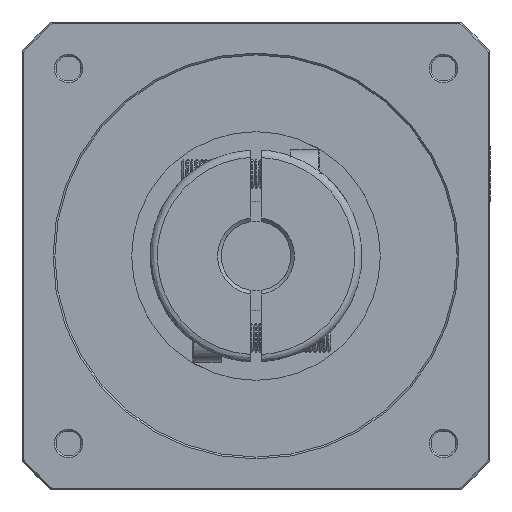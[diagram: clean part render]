
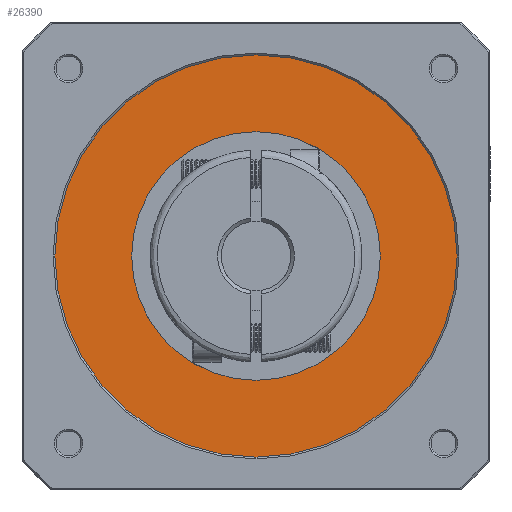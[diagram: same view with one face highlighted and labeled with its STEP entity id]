
A CAD part, front view. The second image highlights one B-rep face of the part: STEP entity #26390.
In plain terms, the highlighted planar face has unit normal (0, 1, 0).
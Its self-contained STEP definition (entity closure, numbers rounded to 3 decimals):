
#542 = EDGE_CURVE ( 'NONE', #47825, #14493, #8088, .T. ) ;
#903 = ORIENTED_EDGE ( 'NONE', *, *, #68615, .T. ) ;
#2756 = CARTESIAN_POINT ( 'NONE',  ( 0., -134.111, -55. ) ) ;
#5072 = EDGE_CURVE ( 'NONE', #14493, #47825, #10459, .T. ) ;
#8088 = CIRCLE ( 'NONE', #29263, 55. ) ;
#8364 = AXIS2_PLACEMENT_3D ( 'NONE', #11970, #59632, #18844 ) ;
#9831 = PLANE ( 'NONE',  #26970 ) ;
#10459 = CIRCLE ( 'NONE', #8364, 55. ) ;
#11970 = CARTESIAN_POINT ( 'NONE',  ( 0., -134.111, 0. ) ) ;
#14493 = VERTEX_POINT ( 'NONE', #69861 ) ;
#18844 = DIRECTION ( 'NONE',  ( 0., 0., -1. ) ) ;
#26390 = ADVANCED_FACE ( 'NONE', ( #87041, #69087 ), #9831, .F. ) ;
#26970 = AXIS2_PLACEMENT_3D ( 'NONE', #37254, #84809, #44085 ) ;
#27304 = CIRCLE ( 'NONE', #31655, 34. ) ;
#29263 = AXIS2_PLACEMENT_3D ( 'NONE', #39231, #86756, #47134 ) ;
#30407 = CARTESIAN_POINT ( 'NONE',  ( 0., -134.111, 0. ) ) ;
#31302 = ORIENTED_EDGE ( 'NONE', *, *, #73679, .T. ) ;
#31655 = AXIS2_PLACEMENT_3D ( 'NONE', #38587, #86135, #45439 ) ;
#37251 = DIRECTION ( 'NONE',  ( 0., 0., 1. ) ) ;
#37254 = CARTESIAN_POINT ( 'NONE',  ( -55.66, -134.111, -55.66 ) ) ;
#38587 = CARTESIAN_POINT ( 'NONE',  ( 0., -134.111, 0. ) ) ;
#39231 = CARTESIAN_POINT ( 'NONE',  ( 0., -134.111, 0. ) ) ;
#42713 = EDGE_LOOP ( 'NONE', ( #63811, #82888 ) ) ;
#44085 = DIRECTION ( 'NONE',  ( 1., 0., 0. ) ) ;
#45439 = DIRECTION ( 'NONE',  ( 0., 0., 1. ) ) ;
#47134 = DIRECTION ( 'NONE',  ( 0., 0., -1. ) ) ;
#47825 = VERTEX_POINT ( 'NONE', #2756 ) ;
#59490 = CIRCLE ( 'NONE', #77481, 34. ) ;
#59632 = DIRECTION ( 'NONE',  ( 0., 1., 0. ) ) ;
#63811 = ORIENTED_EDGE ( 'NONE', *, *, #542, .T. ) ;
#66183 = CARTESIAN_POINT ( 'NONE',  ( 0., -134.111, 34. ) ) ;
#68615 = EDGE_CURVE ( 'NONE', #69072, #79586, #27304, .T. ) ;
#69072 = VERTEX_POINT ( 'NONE', #83993 ) ;
#69087 = FACE_OUTER_BOUND ( 'NONE', #42713, .T. ) ;
#69861 = CARTESIAN_POINT ( 'NONE',  ( 0., -134.111, 55. ) ) ;
#73679 = EDGE_CURVE ( 'NONE', #79586, #69072, #59490, .T. ) ;
#77481 = AXIS2_PLACEMENT_3D ( 'NONE', #30407, #77985, #37251 ) ;
#77985 = DIRECTION ( 'NONE',  ( 0., -1., 0. ) ) ;
#78063 = EDGE_LOOP ( 'NONE', ( #31302, #903 ) ) ;
#79586 = VERTEX_POINT ( 'NONE', #66183 ) ;
#82888 = ORIENTED_EDGE ( 'NONE', *, *, #5072, .T. ) ;
#83993 = CARTESIAN_POINT ( 'NONE',  ( 0., -134.111, -34. ) ) ;
#84809 = DIRECTION ( 'NONE',  ( 0., -1., 0. ) ) ;
#86135 = DIRECTION ( 'NONE',  ( 0., -1., 0. ) ) ;
#86756 = DIRECTION ( 'NONE',  ( 0., 1., 0. ) ) ;
#87041 = FACE_BOUND ( 'NONE', #78063, .T. ) ;
